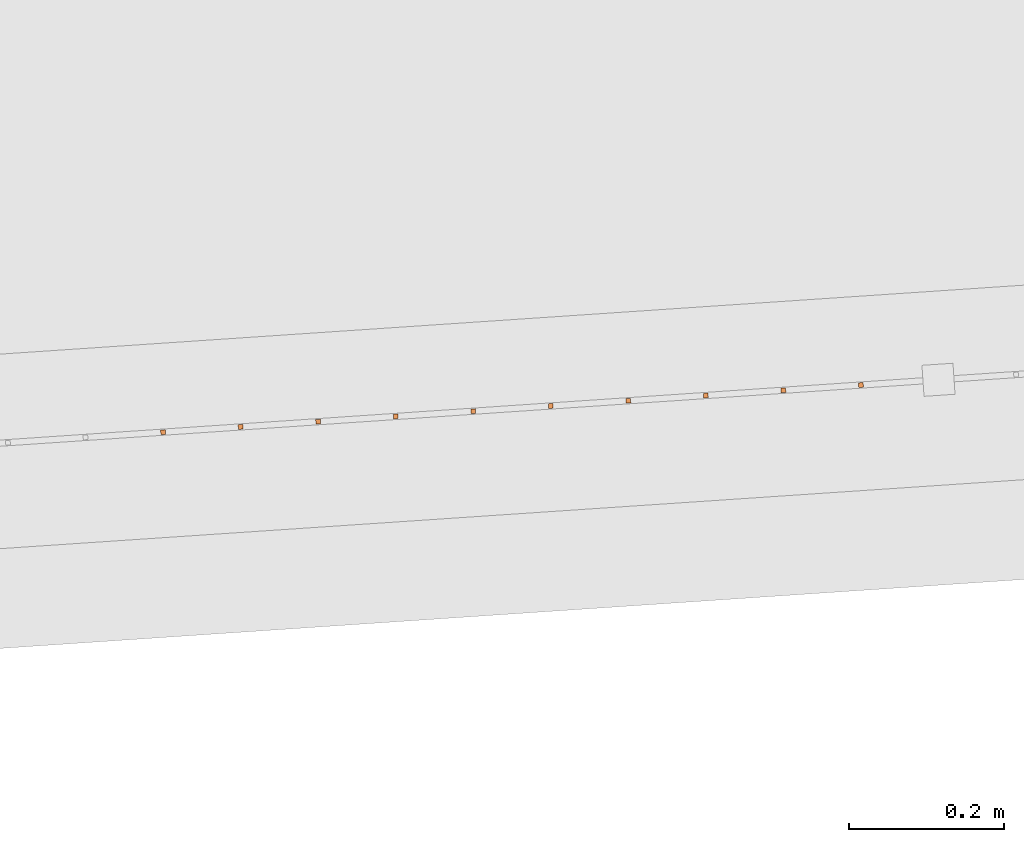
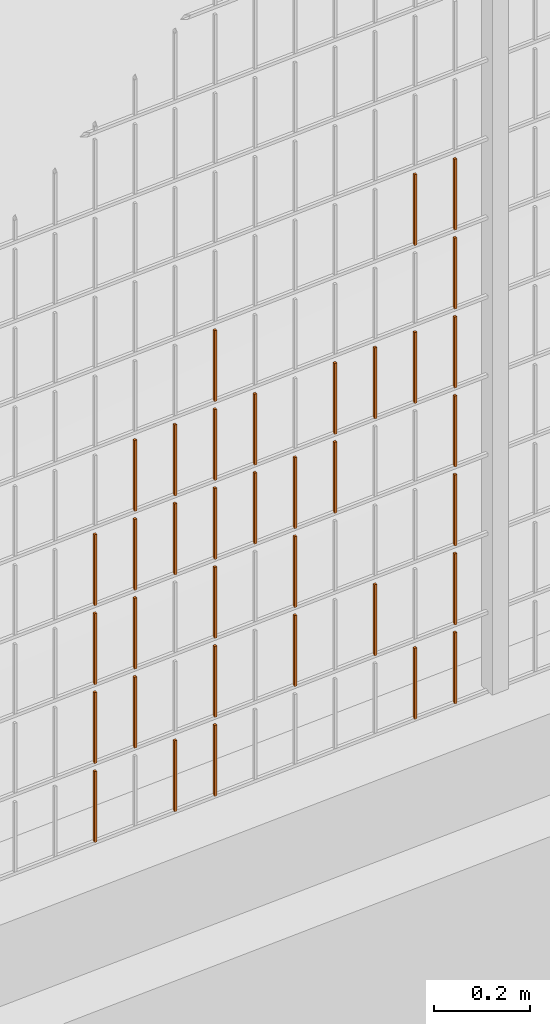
# One storey, part 138 of 1809: 36 proxies, 1 element without a shape of its own.
"""IFC2X3 building model written with IfcOpenShell, lengths in millimetres."""

from ifc_helpers import new_model, entity, si_unit, converted_unit, derived_unit, money_unit, direction, frame, origin_with_axes, place, context, subcontext, project, spatial, faceted_brep, source, transform, mapped, material, type_object, element, aggregate, save


model = new_model("IFC2X3")

# Units and contexts
model_context = context("Model", 3, precision=0.01, world=origin_with_axes(), true_north=direction((0.0, 1.0)))
body_context = subcontext(model_context, "Body", "Model", "MODEL_VIEW")
ifc_project = project(units=[si_unit("LENGTHUNIT", "METRE", prefix="MILLI"), si_unit("AREAUNIT", "SQUARE_METRE"), si_unit("VOLUMEUNIT", "CUBIC_METRE"), converted_unit("PLANEANGLEUNIT", "DEGREE", entity("IfcPlaneAngleMeasure", 0.0174532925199), si_unit("PLANEANGLEUNIT", "RADIAN"), dimensions=[0, 0, 0, 0, 0, 0, 0]), si_unit("SOLIDANGLEUNIT", "STERADIAN"), money_unit("EUR"), converted_unit("TIMEUNIT", "Year", entity("IfcTimeMeasure", 31556926.0), si_unit("TIMEUNIT", "SECOND"), dimensions=[0, 0, 1, 0, 0, 0, 0]), si_unit("MASSUNIT", "GRAM", prefix="KILO"), si_unit("THERMODYNAMICTEMPERATUREUNIT", "DEGREE_CELSIUS"), si_unit("LUMINOUSINTENSITYUNIT", "LUMEN"), si_unit("ENERGYUNIT", "JOULE", prefix="MEGA"), derived_unit("THERMALCONDUCTANCEUNIT", [(si_unit("POWERUNIT", "WATT"), 1), (si_unit("LENGTHUNIT", "METRE"), -1), (si_unit("THERMODYNAMICTEMPERATUREUNIT", "KELVIN"), -1)]), derived_unit("SPECIFICHEATCAPACITYUNIT", [(si_unit("ENERGYUNIT", "JOULE"), 1), (si_unit("MASSUNIT", "GRAM", prefix="KILO"), -1), (si_unit("THERMODYNAMICTEMPERATUREUNIT", "KELVIN"), -1)]), derived_unit("MASSDENSITYUNIT", [(si_unit("MASSUNIT", "GRAM", prefix="KILO"), 1), (si_unit("VOLUMEUNIT", "CUBIC_METRE"), -1)])], contexts=[model_context])

# Site, building, storey
site_placement = place(None, origin_with_axes())
site = spatial("IfcSite", under=ifc_project, at=site_placement, Name="Politse- ja Piirivalveameti ning Päästeameti ühishoone", CompositionType="ELEMENT")
building_placement = place(site_placement, origin_with_axes())
building = spatial("IfcBuilding", under=site, at=building_placement, Name="Politse- ja Piirivalveameti ning Päästeameti ühishoone", CompositionType="ELEMENT")
storey_placement = place(building_placement, origin_with_axes())
storey = spatial("IfcBuildingStorey", under=building, at=storey_placement, Name="Esimene korrus", CompositionType="ELEMENT", Elevation=0.0)

# Proxies
building_element_proxy_type_1 = type_object("IfcBuildingElementProxyType", Name="Railing Type", PredefinedType="NOTDEFINED")
proxy_1_placement = place(storey_placement, frame((89252.001212, -29183.4766571, 203.661247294), z_axis=(0.0, 0.0, 1.0), x_axis=(1.0, 0.0, 0.0)))
proxy_1 = element("IfcBuildingElementProxy", 1, at=proxy_1_placement, inside=storey, type_object=building_element_proxy_type_1, Name="PIIRDEAED")
ifc_material = material(Name="ET-03_Raud")
building_element_proxy_type_2 = type_object("IfcBuildingElementProxyType", Name="IfcBuildingElementProxy", PredefinedType="NOTDEFINED")
shared_shape_1 = source(origin_with_axes(), body_context, "Body", "Brep", [
    faceted_brep([(3.0, 3.0, -0.000752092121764), (-3.0, 3.0, -0.000752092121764), (-3.0, 3.0, 179.99926046), (3.0, 3.0, 179.99926046), (3.0, -3.0, 0.000752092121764), (-3.0, -3.0, 0.000752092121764), (-3.0, -3.0, 180.000764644), (3.0, -3.0, 180.000764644)], [[[0, 1, 2, 3]], [[0, 4, 5, 1]], [[1, 5, 6, 2]], [[3, 2, 6, 7]], [[4, 0, 3, 7]], [[5, 4, 7, 6]]]),
])
proxy_2_placement = place(proxy_1_placement, frame((-88026.1072617, -23243.6061086, 205.116186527), z_axis=(0.0, 0.0, 1.0), x_axis=(1.0, 0.0, 0.0)))
proxy_2 = element("IfcBuildingElementProxy", 2, at=proxy_2_placement, type_object=building_element_proxy_type_2, material=ifc_material, Name="BALUSTER - 001", context=body_context, shape_type="MappedRepresentation", body=[
    mapped(shared_shape_1, transform((0.0, 0.0, 0.0), x_axis=(-0.0673926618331, 0.997726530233, 0.0), y_axis=(-0.997726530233, -0.0673926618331, 0.0), z_axis=(0.0, 0.0, 1.0))),
])
proxy_3_placement = place(proxy_1_placement, frame((-88026.1072617, -23243.6061086, 605.116186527), z_axis=(0.0, 0.0, 1.0), x_axis=(1.0, 0.0, 0.0)))
proxy_3 = element("IfcBuildingElementProxy", 3, at=proxy_3_placement, type_object=building_element_proxy_type_2, material=ifc_material, Name="BALUSTER - 001", context=body_context, shape_type="MappedRepresentation", body=[
    mapped(shared_shape_1, transform((0.0, 0.0, 0.0), x_axis=(-0.0673926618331, 0.997726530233, 0.0), y_axis=(-0.997726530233, -0.0673926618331, 0.0), z_axis=(0.0, 0.0, 1.0))),
])
shared_shape_2 = source(origin_with_axes(), body_context, "Body", "Brep", [
    faceted_brep([(3.0, 3.0, -0.000752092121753), (-3.0, 3.0, -0.000752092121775), (-3.0, 3.0, 179.99926046), (3.0, 3.0, 179.99926046), (3.0, -3.0, 0.000752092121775), (-3.0, -3.0, 0.000752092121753), (-3.0, -3.0, 180.000764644), (3.0, -3.0, 180.000764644)], [[[0, 1, 2, 3]], [[0, 4, 5, 1]], [[1, 5, 6, 2]], [[3, 2, 6, 7]], [[4, 0, 3, 7]], [[5, 4, 7, 6]]]),
])
proxy_4_placement = place(proxy_1_placement, frame((-87826.5619557, -23230.1275762, 5.16632600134), z_axis=(0.0, 0.0, 1.0), x_axis=(1.0, 0.0, 0.0)))
proxy_4 = element("IfcBuildingElementProxy", 4, at=proxy_4_placement, type_object=building_element_proxy_type_2, material=ifc_material, Name="BALUSTER - 001", context=body_context, shape_type="MappedRepresentation", body=[
    mapped(shared_shape_2, transform((0.0, 0.0, 0.0), x_axis=(-0.0673926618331, 0.997726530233, 0.0), y_axis=(-0.997726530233, -0.0673926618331, 0.0), z_axis=(0.0, 0.0, 1.0))),
])
shared_shape_3 = source(origin_with_axes(), body_context, "Body", "Brep", [
    faceted_brep([(3.0, 3.0, -0.000752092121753), (-3.0, 3.0, -0.000752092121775), (-3.0, 3.0, 179.99926046), (3.0, 3.0, 179.99926046), (3.0, -3.0, 0.000752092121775), (-3.0, -3.0, 0.000752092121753), (-3.0, -3.0, 180.000764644), (3.0, -3.0, 180.000764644)], [[[0, 1, 2, 3]], [[0, 4, 5, 1]], [[1, 5, 6, 2]], [[3, 2, 6, 7]], [[4, 0, 3, 7]], [[5, 4, 7, 6]]]),
])
proxy_5_placement = place(proxy_1_placement, frame((-87826.5619557, -23230.1275762, 605.166326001), z_axis=(0.0, 0.0, 1.0), x_axis=(1.0, 0.0, 0.0)))
proxy_5 = element("IfcBuildingElementProxy", 5, at=proxy_5_placement, type_object=building_element_proxy_type_2, material=ifc_material, Name="BALUSTER - 001", context=body_context, shape_type="MappedRepresentation", body=[
    mapped(shared_shape_3, transform((0.0, 0.0, 0.0), x_axis=(-0.0673926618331, 0.997726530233, 0.0), y_axis=(-0.997726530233, -0.0673926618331, 0.0), z_axis=(0.0, 0.0, 1.0))),
])
shared_shape_4 = source(origin_with_axes(), body_context, "Body", "Brep", [
    faceted_brep([(3.0, 3.0, -0.000752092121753), (-3.0, 3.0, -0.000752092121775), (-3.0, 3.0, 179.99926046), (3.0, 3.0, 179.99926046), (3.0, -3.0, 0.000752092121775), (-3.0, -3.0, 0.000752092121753), (-3.0, -3.0, 180.000764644), (3.0, -3.0, 180.000764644)], [[[0, 1, 2, 3]], [[0, 4, 5, 1]], [[1, 5, 6, 2]], [[3, 2, 6, 7]], [[4, 0, 3, 7]], [[5, 4, 7, 6]]]),
])
proxy_6_placement = place(proxy_1_placement, frame((-87826.5619557, -23230.1275762, 805.166326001), z_axis=(0.0, 0.0, 1.0), x_axis=(1.0, 0.0, 0.0)))
proxy_6 = element("IfcBuildingElementProxy", 6, at=proxy_6_placement, type_object=building_element_proxy_type_2, material=ifc_material, Name="BALUSTER - 001", context=body_context, shape_type="MappedRepresentation", body=[
    mapped(shared_shape_4, transform((0.0, 0.0, 0.0), x_axis=(-0.0673926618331, 0.997726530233, 0.0), y_axis=(-0.997726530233, -0.0673926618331, 0.0), z_axis=(0.0, 0.0, 1.0))),
])
shared_shape_5 = source(origin_with_axes(), body_context, "Body", "Brep", [
    faceted_brep([(3.0, 3.0, -0.000752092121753), (-3.0, 3.0, -0.000752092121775), (-3.0, 3.0, 179.99926046), (3.0, 3.0, 179.99926046), (3.0, -3.0, 0.000752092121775), (-3.0, -3.0, 0.000752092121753), (-3.0, -3.0, 180.000764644), (3.0, -3.0, 180.000764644)], [[[0, 1, 2, 3]], [[0, 4, 5, 1]], [[1, 5, 6, 2]], [[3, 2, 6, 7]], [[4, 0, 3, 7]], [[5, 4, 7, 6]]]),
])
proxy_7_placement = place(proxy_1_placement, frame((-87826.5619557, -23230.1275762, 405.166326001), z_axis=(0.0, 0.0, 1.0), x_axis=(1.0, 0.0, 0.0)))
proxy_7 = element("IfcBuildingElementProxy", 7, at=proxy_7_placement, type_object=building_element_proxy_type_2, material=ifc_material, Name="BALUSTER - 001", context=body_context, shape_type="MappedRepresentation", body=[
    mapped(shared_shape_5, transform((0.0, 0.0, 0.0), x_axis=(-0.0673926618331, 0.997726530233, 0.0), y_axis=(-0.997726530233, -0.0673926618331, 0.0), z_axis=(0.0, 0.0, 1.0))),
])
shared_shape_6 = source(origin_with_axes(), body_context, "Body", "Brep", [
    faceted_brep([(3.0, 3.0, -0.000752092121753), (-3.0, 3.0, -0.000752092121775), (-3.0, 3.0, 179.99926046), (3.0, 3.0, 179.99926046), (3.0, -3.0, 0.000752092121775), (-3.0, -3.0, 0.000752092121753), (-3.0, -3.0, 180.000764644), (3.0, -3.0, 180.000764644)], [[[0, 1, 2, 3]], [[0, 4, 5, 1]], [[1, 5, 6, 2]], [[3, 2, 6, 7]], [[4, 0, 3, 7]], [[5, 4, 7, 6]]]),
])
proxy_8_placement = place(proxy_1_placement, frame((-87826.5619557, -23230.1275762, 205.166326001), z_axis=(0.0, 0.0, 1.0), x_axis=(1.0, 0.0, 0.0)))
proxy_8 = element("IfcBuildingElementProxy", 8, at=proxy_8_placement, type_object=building_element_proxy_type_2, material=ifc_material, Name="BALUSTER - 001", context=body_context, shape_type="MappedRepresentation", body=[
    mapped(shared_shape_6, transform((0.0, 0.0, 0.0), x_axis=(-0.0673926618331, 0.997726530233, 0.0), y_axis=(-0.997726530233, -0.0673926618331, 0.0), z_axis=(0.0, 0.0, 1.0))),
])
shared_shape_7 = source(origin_with_axes(), body_context, "Body", "Brep", [
    faceted_brep([(3.0, 3.0, -0.000752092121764), (-3.0, 3.0, -0.000752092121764), (-3.0, 3.0, 179.99926046), (3.0, 3.0, 179.99926046), (3.0, -3.0, 0.000752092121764), (-3.0, -3.0, 0.000752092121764), (-3.0, -3.0, 180.000764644), (3.0, -3.0, 180.000764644)], [[[0, 1, 2, 3]], [[0, 4, 5, 1]], [[1, 5, 6, 2]], [[3, 2, 6, 7]], [[4, 0, 3, 7]], [[5, 4, 7, 6]]]),
])
proxy_9_placement = place(proxy_1_placement, frame((-88026.1072617, -23243.6061086, 405.116186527), z_axis=(0.0, 0.0, 1.0), x_axis=(1.0, 0.0, 0.0)))
proxy_9 = element("IfcBuildingElementProxy", 9, at=proxy_9_placement, type_object=building_element_proxy_type_2, material=ifc_material, Name="BALUSTER - 001", context=body_context, shape_type="MappedRepresentation", body=[
    mapped(shared_shape_7, transform((0.0, 0.0, 0.0), x_axis=(-0.0673926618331, 0.997726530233, 0.0), y_axis=(-0.997726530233, -0.0673926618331, 0.0), z_axis=(0.0, 0.0, 1.0))),
])
shared_shape_8 = source(origin_with_axes(), body_context, "Body", "Brep", [
    faceted_brep([(3.0, 3.0, -0.000752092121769), (-3.0, 3.0, -0.000752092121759), (-3.00000000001, 3.0, 179.99926046), (2.99999999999, 3.0, 179.99926046), (3.0, -3.0, 0.000752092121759), (-3.0, -3.0, 0.000752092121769), (-3.00000000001, -3.0, 180.000764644), (2.99999999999, -3.0, 180.000764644)], [[[0, 1, 2, 3]], [[0, 4, 5, 1]], [[1, 5, 6, 2]], [[3, 2, 6, 7]], [[4, 0, 3, 7]], [[5, 4, 7, 6]]]),
])
proxy_10_placement = place(proxy_1_placement, frame((-87826.5619557, -23230.1275762, 1005.166326), z_axis=(0.0, 0.0, 1.0), x_axis=(1.0, 0.0, 0.0)))
proxy_10 = element("IfcBuildingElementProxy", 10, at=proxy_10_placement, type_object=building_element_proxy_type_2, material=ifc_material, Name="BALUSTER - 001", context=body_context, shape_type="MappedRepresentation", body=[
    mapped(shared_shape_8, transform((0.0, 0.0, 0.0), x_axis=(-0.0673926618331, 0.997726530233, 0.0), y_axis=(-0.997726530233, -0.0673926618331, 0.0), z_axis=(0.0, 0.0, 1.0))),
])
shared_shape_9 = source(origin_with_axes(), body_context, "Body", "Brep", [
    faceted_brep([(3.0, 3.0, -0.000752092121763), (-3.0, 3.0, -0.000752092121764), (-3.0, 3.0, 179.99926046), (3.0, 3.0, 179.99926046), (3.0, -3.0, 0.000752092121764), (-3.0, -3.0, 0.000752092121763), (-3.0, -3.0, 180.000764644), (3.0, -3.0, 180.000764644)], [[[0, 1, 2, 3]], [[0, 4, 5, 1]], [[1, 5, 6, 2]], [[3, 2, 6, 7]], [[4, 0, 3, 7]], [[5, 4, 7, 6]]]),
])
proxy_11_placement = place(proxy_1_placement, frame((-87227.9260376, -23189.6919791, 5.3167444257), z_axis=(0.0, 0.0, 1.0), x_axis=(1.0, 0.0, 0.0)))
proxy_11 = element("IfcBuildingElementProxy", 11, at=proxy_11_placement, type_object=building_element_proxy_type_2, material=ifc_material, Name="BALUSTER - 001", context=body_context, shape_type="MappedRepresentation", body=[
    mapped(shared_shape_9, transform((0.0, 0.0, 0.0), x_axis=(-0.0673926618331, 0.997726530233, 0.0), y_axis=(-0.997726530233, -0.0673926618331, 0.0), z_axis=(0.0, 0.0, 1.0))),
])
proxy_12_placement = place(proxy_1_placement, frame((-87227.9260376, -23189.6919791, 205.316744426), z_axis=(0.0, 0.0, 1.0), x_axis=(1.0, 0.0, 0.0)))
proxy_12 = element("IfcBuildingElementProxy", 12, at=proxy_12_placement, type_object=building_element_proxy_type_2, material=ifc_material, Name="BALUSTER - 001", context=body_context, shape_type="MappedRepresentation", body=[
    mapped(shared_shape_9, transform((0.0, 0.0, 0.0), x_axis=(-0.0673926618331, 0.997726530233, 0.0), y_axis=(-0.997726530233, -0.0673926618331, 0.0), z_axis=(0.0, 0.0, 1.0))),
])
shared_shape_10 = source(origin_with_axes(), body_context, "Body", "Brep", [
    faceted_brep([(3.0, 3.0, -0.000752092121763), (-3.0, 3.0, -0.000752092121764), (-3.0, 3.0, 179.99926046), (3.0, 3.0, 179.99926046), (3.0, -3.0, 0.000752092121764), (-3.0, -3.0, 0.000752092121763), (-3.0, -3.0, 180.000764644), (3.0, -3.0, 180.000764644)], [[[0, 1, 2, 3]], [[0, 4, 5, 1]], [[1, 5, 6, 2]], [[3, 2, 6, 7]], [[4, 0, 3, 7]], [[5, 4, 7, 6]]]),
])
proxy_13_placement = place(proxy_1_placement, frame((-88125.8799148, -23250.3453748, 5.09111678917), z_axis=(0.0, 0.0, 1.0), x_axis=(1.0, 0.0, 0.0)))
proxy_13 = element("IfcBuildingElementProxy", 13, at=proxy_13_placement, type_object=building_element_proxy_type_2, material=ifc_material, Name="BALUSTER - 001", context=body_context, shape_type="MappedRepresentation", body=[
    mapped(shared_shape_10, transform((0.0, 0.0, 0.0), x_axis=(-0.0673926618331, 0.997726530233, 0.0), y_axis=(-0.997726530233, -0.0673926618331, 0.0), z_axis=(0.0, 0.0, 1.0))),
])
shared_shape_11 = source(origin_with_axes(), body_context, "Body", "Brep", [
    faceted_brep([(3.0, 3.0, -0.000752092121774), (-3.0, 3.0, -0.000752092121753), (-3.0, 3.0, 179.99926046), (3.0, 3.0, 179.99926046), (3.0, -3.0, 0.000752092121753), (-3.0, -3.0, 0.000752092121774), (-3.0, -3.0, 180.000764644), (3.0, -3.0, 180.000764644)], [[[0, 1, 2, 3]], [[0, 4, 5, 1]], [[1, 5, 6, 2]], [[3, 2, 6, 7]], [[4, 0, 3, 7]], [[5, 4, 7, 6]]]),
])
proxy_14_placement = place(proxy_1_placement, frame((-87327.6986906, -23196.4312453, 5.29167468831), z_axis=(0.0, 0.0, 1.0), x_axis=(1.0, 0.0, 0.0)))
proxy_14 = element("IfcBuildingElementProxy", 14, at=proxy_14_placement, type_object=building_element_proxy_type_2, material=ifc_material, Name="BALUSTER - 001", context=body_context, shape_type="MappedRepresentation", body=[
    mapped(shared_shape_11, transform((0.0, 0.0, 0.0), x_axis=(-0.0673926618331, 0.997726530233, 0.0), y_axis=(-0.997726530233, -0.0673926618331, 0.0), z_axis=(0.0, 0.0, 1.0))),
])
proxy_15_placement = place(proxy_1_placement, frame((-87926.3346087, -23236.8668424, 5.14125626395), z_axis=(0.0, 0.0, 1.0), x_axis=(1.0, 0.0, 0.0)))
proxy_15 = element("IfcBuildingElementProxy", 15, at=proxy_15_placement, type_object=building_element_proxy_type_2, material=ifc_material, Name="BALUSTER - 001", context=body_context, shape_type="MappedRepresentation", body=[
    mapped(shared_shape_11, transform((0.0, 0.0, 0.0), x_axis=(-0.0673926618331, 0.997726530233, 0.0), y_axis=(-0.997726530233, -0.0673926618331, 0.0), z_axis=(0.0, 0.0, 1.0))),
])
shared_shape_12 = source(origin_with_axes(), body_context, "Body", "Brep", [
    faceted_brep([(3.0, 3.0, -0.000752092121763), (-3.0, 3.0, -0.000752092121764), (-3.0, 3.0, 179.99926046), (3.0, 3.0, 179.99926046), (3.0, -3.0, 0.000752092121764), (-3.0, -3.0, 0.000752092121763), (-3.0, -3.0, 180.000764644), (3.0, -3.0, 180.000764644)], [[[0, 1, 2, 3]], [[0, 4, 5, 1]], [[1, 5, 6, 2]], [[3, 2, 6, 7]], [[4, 0, 3, 7]], [[5, 4, 7, 6]]]),
])
proxy_16_placement = place(proxy_1_placement, frame((-88125.8799148, -23250.3453748, 605.091116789), z_axis=(0.0, 0.0, 1.0), x_axis=(1.0, 0.0, 0.0)))
proxy_16 = element("IfcBuildingElementProxy", 16, at=proxy_16_placement, type_object=building_element_proxy_type_2, material=ifc_material, Name="BALUSTER - 001", context=body_context, shape_type="MappedRepresentation", body=[
    mapped(shared_shape_12, transform((0.0, 0.0, 0.0), x_axis=(-0.0673926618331, 0.997726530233, 0.0), y_axis=(-0.997726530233, -0.0673926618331, 0.0), z_axis=(0.0, 0.0, 1.0))),
])
shared_shape_13 = source(origin_with_axes(), body_context, "Body", "Brep", [
    faceted_brep([(3.0, 3.0, -0.000752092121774), (-3.0, 3.0, -0.000752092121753), (-3.0, 3.0, 179.99926046), (3.0, 3.0, 179.99926046), (3.0, -3.0, 0.000752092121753), (-3.0, -3.0, 0.000752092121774), (-3.0, -3.0, 180.000764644), (3.0, -3.0, 180.000764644)], [[[0, 1, 2, 3]], [[0, 4, 5, 1]], [[1, 5, 6, 2]], [[3, 2, 6, 7]], [[4, 0, 3, 7]], [[5, 4, 7, 6]]]),
])
proxy_17_placement = place(proxy_1_placement, frame((-87726.7893027, -23223.38831, 605.191395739), z_axis=(0.0, 0.0, 1.0), x_axis=(1.0, 0.0, 0.0)))
proxy_17 = element("IfcBuildingElementProxy", 17, at=proxy_17_placement, type_object=building_element_proxy_type_2, material=ifc_material, Name="BALUSTER - 001", context=body_context, shape_type="MappedRepresentation", body=[
    mapped(shared_shape_13, transform((0.0, 0.0, 0.0), x_axis=(-0.0673926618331, 0.997726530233, 0.0), y_axis=(-0.997726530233, -0.0673926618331, 0.0), z_axis=(0.0, 0.0, 1.0))),
])
shared_shape_14 = source(origin_with_axes(), body_context, "Body", "Brep", [
    faceted_brep([(3.0, 3.0, -0.000752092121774), (-3.0, 3.0, -0.000752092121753), (-3.0, 3.0, 179.99926046), (3.0, 3.0, 179.99926046), (3.0, -3.0, 0.000752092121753), (-3.0, -3.0, 0.000752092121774), (-3.0, -3.0, 180.000764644), (3.0, -3.0, 180.000764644)], [[[0, 1, 2, 3]], [[0, 4, 5, 1]], [[1, 5, 6, 2]], [[3, 2, 6, 7]], [[4, 0, 3, 7]], [[5, 4, 7, 6]]]),
])
proxy_18_placement = place(proxy_1_placement, frame((-87926.3346087, -23236.8668424, 605.141256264), z_axis=(0.0, 0.0, 1.0), x_axis=(1.0, 0.0, 0.0)))
proxy_18 = element("IfcBuildingElementProxy", 18, at=proxy_18_placement, type_object=building_element_proxy_type_2, material=ifc_material, Name="BALUSTER - 001", context=body_context, shape_type="MappedRepresentation", body=[
    mapped(shared_shape_14, transform((0.0, 0.0, 0.0), x_axis=(-0.0673926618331, 0.997726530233, 0.0), y_axis=(-0.997726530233, -0.0673926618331, 0.0), z_axis=(0.0, 0.0, 1.0))),
])
proxy_19_placement = place(proxy_1_placement, frame((-87926.3346087, -23236.8668424, 805.141256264), z_axis=(0.0, 0.0, 1.0), x_axis=(1.0, 0.0, 0.0)))
proxy_19 = element("IfcBuildingElementProxy", 19, at=proxy_19_placement, type_object=building_element_proxy_type_2, material=ifc_material, Name="BALUSTER - 001", context=body_context, shape_type="MappedRepresentation", body=[
    mapped(shared_shape_14, transform((0.0, 0.0, 0.0), x_axis=(-0.0673926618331, 0.997726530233, 0.0), y_axis=(-0.997726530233, -0.0673926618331, 0.0), z_axis=(0.0, 0.0, 1.0))),
])
shared_shape_15 = source(origin_with_axes(), body_context, "Body", "Brep", [
    faceted_brep([(3.0, 3.0, -0.000752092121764), (-3.0, 3.0, -0.000752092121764), (-3.0, 3.0, 179.99926046), (3.0, 3.0, 179.99926046), (3.0, -3.0, 0.000752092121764), (-3.0, -3.0, 0.000752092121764), (-3.0, -3.0, 180.000764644), (3.0, -3.0, 180.000764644)], [[[0, 1, 2, 3]], [[0, 4, 5, 1]], [[1, 5, 6, 2]], [[3, 2, 6, 7]], [[4, 0, 3, 7]], [[5, 4, 7, 6]]]),
])
proxy_20_placement = place(proxy_1_placement, frame((-88026.1072617, -23243.6061086, 805.116186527), z_axis=(0.0, 0.0, 1.0), x_axis=(1.0, 0.0, 0.0)))
proxy_20 = element("IfcBuildingElementProxy", 20, at=proxy_20_placement, type_object=building_element_proxy_type_2, material=ifc_material, Name="BALUSTER - 001", context=body_context, shape_type="MappedRepresentation", body=[
    mapped(shared_shape_15, transform((0.0, 0.0, 0.0), x_axis=(-0.0673926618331, 0.997726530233, 0.0), y_axis=(-0.997726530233, -0.0673926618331, 0.0), z_axis=(0.0, 0.0, 1.0))),
])
shared_shape_16 = source(origin_with_axes(), body_context, "Body", "Brep", [
    faceted_brep([(3.0, 3.0, -0.000752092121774), (-3.0, 3.0, -0.000752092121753), (-3.0, 3.0, 179.99926046), (3.0, 3.0, 179.99926046), (3.0, -3.0, 0.000752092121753), (-3.0, -3.0, 0.000752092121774), (-3.0, -3.0, 180.000764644), (3.0, -3.0, 180.000764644)], [[[0, 1, 2, 3]], [[0, 4, 5, 1]], [[1, 5, 6, 2]], [[3, 2, 6, 7]], [[4, 0, 3, 7]], [[5, 4, 7, 6]]]),
])
proxy_21_placement = place(proxy_1_placement, frame((-87327.6986906, -23196.4312453, 805.291674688), z_axis=(0.0, 0.0, 1.0), x_axis=(1.0, 0.0, 0.0)))
proxy_21 = element("IfcBuildingElementProxy", 21, at=proxy_21_placement, type_object=building_element_proxy_type_2, material=ifc_material, Name="BALUSTER - 001", context=body_context, shape_type="MappedRepresentation", body=[
    mapped(shared_shape_16, transform((0.0, 0.0, 0.0), x_axis=(-0.0673926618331, 0.997726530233, 0.0), y_axis=(-0.997726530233, -0.0673926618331, 0.0), z_axis=(0.0, 0.0, 1.0))),
])
shared_shape_17 = source(origin_with_axes(), body_context, "Body", "Brep", [
    faceted_brep([(3.0, 3.0, -0.000752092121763), (-3.0, 3.0, -0.000752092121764), (-3.0, 3.0, 179.99926046), (3.0, 3.0, 179.99926046), (3.0, -3.0, 0.000752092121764), (-3.0, -3.0, 0.000752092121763), (-3.0, -3.0, 180.000764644), (3.0, -3.0, 180.000764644)], [[[0, 1, 2, 3]], [[0, 4, 5, 1]], [[1, 5, 6, 2]], [[3, 2, 6, 7]], [[4, 0, 3, 7]], [[5, 4, 7, 6]]]),
])
proxy_22_placement = place(proxy_1_placement, frame((-87327.6986906, -23196.4312453, 1205.29167469), z_axis=(0.0, 0.0, 1.0), x_axis=(1.0, 0.0, 0.0)))
proxy_22 = element("IfcBuildingElementProxy", 22, at=proxy_22_placement, type_object=building_element_proxy_type_2, material=ifc_material, Name="BALUSTER - 001", context=body_context, shape_type="MappedRepresentation", body=[
    mapped(shared_shape_17, transform((0.0, 0.0, 0.0), x_axis=(-0.0673926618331, 0.997726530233, 0.0), y_axis=(-0.997726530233, -0.0673926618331, 0.0), z_axis=(0.0, 0.0, 1.0))),
])
shared_shape_18 = source(origin_with_axes(), body_context, "Body", "Brep", [
    faceted_brep([(3.0, 3.0, -0.000752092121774), (-3.0, 3.0, -0.000752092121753), (-3.0, 3.0, 179.99926046), (3.0, 3.0, 179.99926046), (3.0, -3.0, 0.000752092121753), (-3.0, -3.0, 0.000752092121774), (-3.0, -3.0, 180.000764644), (3.0, -3.0, 180.000764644)], [[[0, 1, 2, 3]], [[0, 4, 5, 1]], [[1, 5, 6, 2]], [[3, 2, 6, 7]], [[4, 0, 3, 7]], [[5, 4, 7, 6]]]),
])
proxy_23_placement = place(proxy_1_placement, frame((-87726.7893027, -23223.38831, 805.191395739), z_axis=(0.0, 0.0, 1.0), x_axis=(1.0, 0.0, 0.0)))
proxy_23 = element("IfcBuildingElementProxy", 23, at=proxy_23_placement, type_object=building_element_proxy_type_2, material=ifc_material, Name="BALUSTER - 001", context=body_context, shape_type="MappedRepresentation", body=[
    mapped(shared_shape_18, transform((0.0, 0.0, 0.0), x_axis=(-0.0673926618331, 0.997726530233, 0.0), y_axis=(-0.997726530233, -0.0673926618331, 0.0), z_axis=(0.0, 0.0, 1.0))),
])
shared_shape_19 = source(origin_with_axes(), body_context, "Body", "Brep", [
    faceted_brep([(3.0, 3.0, -0.000752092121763), (-3.0, 3.0, -0.000752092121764), (-3.0, 3.0, 179.99926046), (3.0, 3.0, 179.99926046), (3.0, -3.0, 0.000752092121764), (-3.0, -3.0, 0.000752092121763), (-3.0, -3.0, 180.000764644), (3.0, -3.0, 180.000764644)], [[[0, 1, 2, 3]], [[0, 4, 5, 1]], [[1, 5, 6, 2]], [[3, 2, 6, 7]], [[4, 0, 3, 7]], [[5, 4, 7, 6]]]),
])
proxy_24_placement = place(proxy_1_placement, frame((-87427.4713436, -23203.1705115, 205.266604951), z_axis=(0.0, 0.0, 1.0), x_axis=(1.0, 0.0, 0.0)))
proxy_24 = element("IfcBuildingElementProxy", 24, at=proxy_24_placement, type_object=building_element_proxy_type_2, material=ifc_material, Name="BALUSTER - 001", context=body_context, shape_type="MappedRepresentation", body=[
    mapped(shared_shape_19, transform((0.0, 0.0, 0.0), x_axis=(-0.0673926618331, 0.997726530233, 0.0), y_axis=(-0.997726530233, -0.0673926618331, 0.0), z_axis=(0.0, 0.0, 1.0))),
])
proxy_25_placement = place(proxy_1_placement, frame((-88125.8799148, -23250.3453748, 205.091116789), z_axis=(0.0, 0.0, 1.0), x_axis=(1.0, 0.0, 0.0)))
proxy_25 = element("IfcBuildingElementProxy", 25, at=proxy_25_placement, type_object=building_element_proxy_type_2, material=ifc_material, Name="BALUSTER - 001", context=body_context, shape_type="MappedRepresentation", body=[
    mapped(shared_shape_19, transform((0.0, 0.0, 0.0), x_axis=(-0.0673926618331, 0.997726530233, 0.0), y_axis=(-0.997726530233, -0.0673926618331, 0.0), z_axis=(0.0, 0.0, 1.0))),
])
proxy_26_placement = place(proxy_1_placement, frame((-88125.8799148, -23250.3453748, 405.091116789), z_axis=(0.0, 0.0, 1.0), x_axis=(1.0, 0.0, 0.0)))
proxy_26 = element("IfcBuildingElementProxy", 26, at=proxy_26_placement, type_object=building_element_proxy_type_2, material=ifc_material, Name="BALUSTER - 001", context=body_context, shape_type="MappedRepresentation", body=[
    mapped(shared_shape_19, transform((0.0, 0.0, 0.0), x_axis=(-0.0673926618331, 0.997726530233, 0.0), y_axis=(-0.997726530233, -0.0673926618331, 0.0), z_axis=(0.0, 0.0, 1.0))),
])
shared_shape_20 = source(origin_with_axes(), body_context, "Body", "Brep", [
    faceted_brep([(3.0, 3.0, -0.000752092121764), (-3.0, 3.0, -0.000752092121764), (-3.0, 3.0, 179.99926046), (3.0, 3.0, 179.99926046), (3.0, -3.0, 0.000752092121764), (-3.0, -3.0, 0.000752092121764), (-3.0, -3.0, 180.000764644), (3.0, -3.0, 180.000764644)], [[[0, 1, 2, 3]], [[0, 4, 5, 1]], [[1, 5, 6, 2]], [[3, 2, 6, 7]], [[4, 0, 3, 7]], [[5, 4, 7, 6]]]),
])
proxy_27_placement = place(proxy_1_placement, frame((-87627.0166497, -23216.6490439, 205.216465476), z_axis=(0.0, 0.0, 1.0), x_axis=(1.0, 0.0, 0.0)))
proxy_27 = element("IfcBuildingElementProxy", 27, at=proxy_27_placement, type_object=building_element_proxy_type_2, material=ifc_material, Name="BALUSTER - 001", context=body_context, shape_type="MappedRepresentation", body=[
    mapped(shared_shape_20, transform((0.0, 0.0, 0.0), x_axis=(-0.0673926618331, 0.997726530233, 0.0), y_axis=(-0.997726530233, -0.0673926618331, 0.0), z_axis=(0.0, 0.0, 1.0))),
])
proxy_28_placement = place(proxy_1_placement, frame((-87627.0166497, -23216.6490439, 405.216465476), z_axis=(0.0, 0.0, 1.0), x_axis=(1.0, 0.0, 0.0)))
proxy_28 = element("IfcBuildingElementProxy", 28, at=proxy_28_placement, type_object=building_element_proxy_type_2, material=ifc_material, Name="BALUSTER - 001", context=body_context, shape_type="MappedRepresentation", body=[
    mapped(shared_shape_20, transform((0.0, 0.0, 0.0), x_axis=(-0.0673926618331, 0.997726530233, 0.0), y_axis=(-0.997726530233, -0.0673926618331, 0.0), z_axis=(0.0, 0.0, 1.0))),
])
proxy_29_placement = place(proxy_1_placement, frame((-87627.0166497, -23216.6490439, 605.216465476), z_axis=(0.0, 0.0, 1.0), x_axis=(1.0, 0.0, 0.0)))
proxy_29 = element("IfcBuildingElementProxy", 29, at=proxy_29_placement, type_object=building_element_proxy_type_2, material=ifc_material, Name="BALUSTER - 001", context=body_context, shape_type="MappedRepresentation", body=[
    mapped(shared_shape_20, transform((0.0, 0.0, 0.0), x_axis=(-0.0673926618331, 0.997726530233, 0.0), y_axis=(-0.997726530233, -0.0673926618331, 0.0), z_axis=(0.0, 0.0, 1.0))),
])
shared_shape_21 = source(origin_with_axes(), body_context, "Body", "Brep", [
    faceted_brep([(3.0, 3.0, -0.000752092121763), (-3.0, 3.0, -0.000752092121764), (-3.0, 3.0, 179.99926046), (3.0, 3.0, 179.99926046), (3.0, -3.0, 0.000752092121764), (-3.0, -3.0, 0.000752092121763), (-3.0, -3.0, 180.000764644), (3.0, -3.0, 180.000764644)], [[[0, 1, 2, 3]], [[0, 4, 5, 1]], [[1, 5, 6, 2]], [[3, 2, 6, 7]], [[4, 0, 3, 7]], [[5, 4, 7, 6]]]),
])
proxy_30_placement = place(proxy_1_placement, frame((-87227.9260376, -23189.6919791, 405.316744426), z_axis=(0.0, 0.0, 1.0), x_axis=(1.0, 0.0, 0.0)))
proxy_30 = element("IfcBuildingElementProxy", 30, at=proxy_30_placement, type_object=building_element_proxy_type_2, material=ifc_material, Name="BALUSTER - 001", context=body_context, shape_type="MappedRepresentation", body=[
    mapped(shared_shape_21, transform((0.0, 0.0, 0.0), x_axis=(-0.0673926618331, 0.997726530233, 0.0), y_axis=(-0.997726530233, -0.0673926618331, 0.0), z_axis=(0.0, 0.0, 1.0))),
])
proxy_31_placement = place(proxy_1_placement, frame((-87227.9260376, -23189.6919791, 1005.31674443), z_axis=(0.0, 0.0, 1.0), x_axis=(1.0, 0.0, 0.0)))
proxy_31 = element("IfcBuildingElementProxy", 31, at=proxy_31_placement, type_object=building_element_proxy_type_2, material=ifc_material, Name="BALUSTER - 001", context=body_context, shape_type="MappedRepresentation", body=[
    mapped(shared_shape_21, transform((0.0, 0.0, 0.0), x_axis=(-0.0673926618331, 0.997726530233, 0.0), y_axis=(-0.997726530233, -0.0673926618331, 0.0), z_axis=(0.0, 0.0, 1.0))),
])
shared_shape_22 = source(origin_with_axes(), body_context, "Body", "Brep", [
    faceted_brep([(3.0, 3.0, -0.000752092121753), (-3.0, 3.0, -0.000752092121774), (-3.0, 3.0, 179.99926046), (3.0, 3.0, 179.99926046), (3.0, -3.0, 0.000752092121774), (-3.0, -3.0, 0.000752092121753), (-3.0, -3.0, 180.000764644), (3.0, -3.0, 180.000764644)], [[[0, 1, 2, 3]], [[0, 4, 5, 1]], [[1, 5, 6, 2]], [[3, 2, 6, 7]], [[4, 0, 3, 7]], [[5, 4, 7, 6]]]),
])
proxy_32_placement = place(proxy_1_placement, frame((-87527.2439966, -23209.9097777, 605.241535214), z_axis=(0.0, 0.0, 1.0), x_axis=(1.0, 0.0, 0.0)))
proxy_32 = element("IfcBuildingElementProxy", 32, at=proxy_32_placement, type_object=building_element_proxy_type_2, material=ifc_material, Name="BALUSTER - 001", context=body_context, shape_type="MappedRepresentation", body=[
    mapped(shared_shape_22, transform((0.0, 0.0, 0.0), x_axis=(-0.0673926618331, 0.997726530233, 0.0), y_axis=(-0.997726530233, -0.0673926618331, 0.0), z_axis=(0.0, 0.0, 1.0))),
])
shared_shape_23 = source(origin_with_axes(), body_context, "Body", "Brep", [
    faceted_brep([(3.0, 3.0, -0.000752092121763), (-3.0, 3.0, -0.000752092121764), (-3.0, 3.0, 179.99926046), (3.0, 3.0, 179.99926046), (3.0, -3.0, 0.000752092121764), (-3.0, -3.0, 0.000752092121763), (-3.0, -3.0, 180.000764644), (3.0, -3.0, 180.000764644)], [[[0, 1, 2, 3]], [[0, 4, 5, 1]], [[1, 5, 6, 2]], [[3, 2, 6, 7]], [[4, 0, 3, 7]], [[5, 4, 7, 6]]]),
])
proxy_33_placement = place(proxy_1_placement, frame((-87227.9260376, -23189.6919791, 605.316744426), z_axis=(0.0, 0.0, 1.0), x_axis=(1.0, 0.0, 0.0)))
proxy_33 = element("IfcBuildingElementProxy", 33, at=proxy_33_placement, type_object=building_element_proxy_type_2, material=ifc_material, Name="BALUSTER - 001", context=body_context, shape_type="MappedRepresentation", body=[
    mapped(shared_shape_23, transform((0.0, 0.0, 0.0), x_axis=(-0.0673926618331, 0.997726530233, 0.0), y_axis=(-0.997726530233, -0.0673926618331, 0.0), z_axis=(0.0, 0.0, 1.0))),
])
proxy_34_placement = place(proxy_1_placement, frame((-87227.9260376, -23189.6919791, 805.316744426), z_axis=(0.0, 0.0, 1.0), x_axis=(1.0, 0.0, 0.0)))
proxy_34 = element("IfcBuildingElementProxy", 34, at=proxy_34_placement, type_object=building_element_proxy_type_2, material=ifc_material, Name="BALUSTER - 001", context=body_context, shape_type="MappedRepresentation", body=[
    mapped(shared_shape_23, transform((0.0, 0.0, 0.0), x_axis=(-0.0673926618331, 0.997726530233, 0.0), y_axis=(-0.997726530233, -0.0673926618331, 0.0), z_axis=(0.0, 0.0, 1.0))),
])
proxy_35_placement = place(proxy_1_placement, frame((-87227.9260376, -23189.6919791, 1205.31674443), z_axis=(0.0, 0.0, 1.0), x_axis=(1.0, 0.0, 0.0)))
proxy_35 = element("IfcBuildingElementProxy", 35, at=proxy_35_placement, type_object=building_element_proxy_type_2, material=ifc_material, Name="BALUSTER - 001", context=body_context, shape_type="MappedRepresentation", body=[
    mapped(shared_shape_23, transform((0.0, 0.0, 0.0), x_axis=(-0.0673926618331, 0.997726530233, 0.0), y_axis=(-0.997726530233, -0.0673926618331, 0.0), z_axis=(0.0, 0.0, 1.0))),
])
shared_shape_24 = source(origin_with_axes(), body_context, "Body", "Brep", [
    faceted_brep([(3.0, 3.0, -0.000752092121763), (-3.0, 3.0, -0.000752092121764), (-3.0, 3.0, 179.99926046), (3.0, 3.0, 179.99926046), (3.0, -3.0, 0.000752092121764), (-3.0, -3.0, 0.000752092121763), (-3.0, -3.0, 180.000764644), (3.0, -3.0, 180.000764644)], [[[0, 1, 2, 3]], [[0, 4, 5, 1]], [[1, 5, 6, 2]], [[3, 2, 6, 7]], [[4, 0, 3, 7]], [[5, 4, 7, 6]]]),
])
proxy_36_placement = place(proxy_1_placement, frame((-87427.4713436, -23203.1705115, 805.266604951), z_axis=(0.0, 0.0, 1.0), x_axis=(1.0, 0.0, 0.0)))
proxy_36 = element("IfcBuildingElementProxy", 36, at=proxy_36_placement, type_object=building_element_proxy_type_2, material=ifc_material, Name="BALUSTER - 001", context=body_context, shape_type="MappedRepresentation", body=[
    mapped(shared_shape_24, transform((0.0, 0.0, 0.0), x_axis=(-0.0673926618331, 0.997726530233, 0.0), y_axis=(-0.997726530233, -0.0673926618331, 0.0), z_axis=(0.0, 0.0, 1.0))),
])
shared_shape_25 = source(origin_with_axes(), body_context, "Body", "Brep", [
    faceted_brep([(3.0, 3.0, -0.000752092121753), (-3.0, 3.0, -0.000752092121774), (-3.0, 3.0, 179.99926046), (3.0, 3.0, 179.99926046), (3.0, -3.0, 0.000752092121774), (-3.0, -3.0, 0.000752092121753), (-3.0, -3.0, 180.000764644), (3.0, -3.0, 180.000764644)], [[[0, 1, 2, 3]], [[0, 4, 5, 1]], [[1, 5, 6, 2]], [[3, 2, 6, 7]], [[4, 0, 3, 7]], [[5, 4, 7, 6]]]),
])
proxy_37_placement = place(proxy_1_placement, frame((-87527.2439966, -23209.9097777, 805.241535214), z_axis=(0.0, 0.0, 1.0), x_axis=(1.0, 0.0, 0.0)))
proxy_37 = element("IfcBuildingElementProxy", 37, at=proxy_37_placement, type_object=building_element_proxy_type_2, material=ifc_material, Name="BALUSTER - 001", context=body_context, shape_type="MappedRepresentation", body=[
    mapped(shared_shape_25, transform((0.0, 0.0, 0.0), x_axis=(-0.0673926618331, 0.997726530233, 0.0), y_axis=(-0.997726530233, -0.0673926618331, 0.0), z_axis=(0.0, 0.0, 1.0))),
])
aggregate(proxy_1, [proxy_11, proxy_14, proxy_4, proxy_15, proxy_13, proxy_12, proxy_24, proxy_27, proxy_8, proxy_2, proxy_25, proxy_30, proxy_28, proxy_7, proxy_9, proxy_26, proxy_33, proxy_32, proxy_29, proxy_17, proxy_5, proxy_18, proxy_3, proxy_16, proxy_34, proxy_21, proxy_36, proxy_37, proxy_23, proxy_6, proxy_19, proxy_20, proxy_31, proxy_10, proxy_35, proxy_22])

save(model, "model.ifc")
